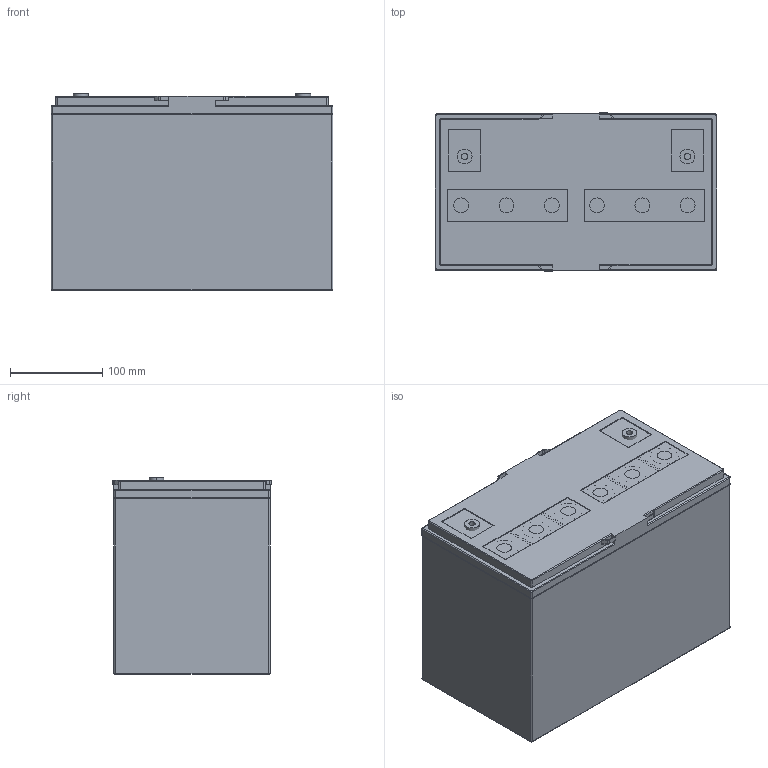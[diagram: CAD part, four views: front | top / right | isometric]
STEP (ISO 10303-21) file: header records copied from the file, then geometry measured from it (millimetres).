
FILE_DESCRIPTION (( 'STEP AP203' ), '1' );
FILE_NAME ('12V150Ah.STEP', '2020-08-06T17:46:57', ( '' ), ( '' ), 'SwSTEP 2.0', 'SolidWorks 2020', '' );
FILE_SCHEMA (( 'CONFIG_CONTROL_DESIGN' ));
Length unit declared in the file: millimetre
Products named in the file (6): ____-0.STEP; ______.STEP; 12V150Ah.STEP; 12V150Ah; ____.STEP; 12V100Ah____.STEP
Assembly tree (7 placements, depth 3):
  12V150Ah
    12V150Ah.STEP
      ____.STEP
      ____-0.STEP
      12V100Ah____.STEP  x2
      ______.STEP  x2
Bounding box: 305 x 171 x 213 mm (x, y, z)
Volume: 1364255.2 mm3; surface area: 661591.1 mm2
Topology: 8 solids, 8 shells, 335 faces, 850 edges, 556 vertices
Faces by surface type: plane 195, cylinder 124, torus 16
Entity records: 10413 total; most frequent: DIRECTION 1728, CARTESIAN_POINT 1696, ORIENTED_EDGE 1640, EDGE_CURVE 820, AXIS2_PLACEMENT_3D 580, LINE 568, VECTOR 568, VERTEX_POINT 536
